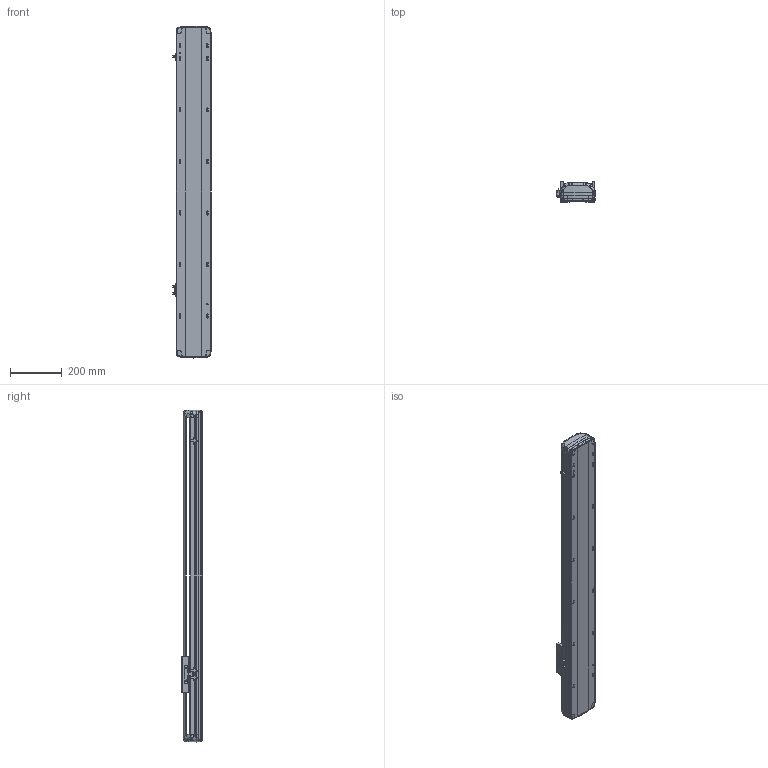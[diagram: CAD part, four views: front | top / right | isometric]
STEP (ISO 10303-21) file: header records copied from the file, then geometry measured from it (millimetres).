
FILE_DESCRIPTION (( 'STEP AP214' ), '1' );
FILE_NAME ('RTH14-XX-900-B-M20-C4.STEP', '2025-10-25T02:23:37', ( 'Microsoft' ), ( 'Microsoft' ), 'SwSTEP 2.0', 'SolidWorks 2018', '' );
FILE_SCHEMA (( 'AUTOMOTIVE_DESIGN' ));
Length unit declared in the file: millimetre
Products named in the file (7): N_RTH14-B-007奻裔^RTH14-XX-XX-B-M20-C4; N_RTH13-L-012感应片（外置）^RTH14-XX-XX-B-M20-C4; N_RTH14-R-004-SFSR16賑釱^RTH14-XX-XX-B-M20-C4; N_RTH14-B-011P菁釱^RTH14-XX-XX-B-M20-C4; N_OMRON EE-SX672 传感器^RTH14-XX-XX-B-M20-C4; RTH14-XX-900-B-M20-C4; N_RTH14-GY-001P^RTH14-XX-XX-B-M20-C4
Assembly tree (9 placements, depth 2):
  RTH14-XX-900-B-M20-C4
    N_RTH14-B-011P菁釱^RTH14-XX-XX-B-M20-C4
    N_RTH14-B-007奻裔^RTH14-XX-XX-B-M20-C4
    N_RTH13-L-012感应片（外置）^RTH14-XX-XX-B-M20-C4
    N_OMRON EE-SX672 传感器^RTH14-XX-XX-B-M20-C4  x3
    N_RTH14-R-004-SFSR16賑釱^RTH14-XX-XX-B-M20-C4
    N_RTH14-GY-001P^RTH14-XX-XX-B-M20-C4  x2
Bounding box: 148.5 x 78.03 x 1288.99 mm (x, y, z)
Volume: 5210720.6 mm3; surface area: 1198481.2 mm2
Topology: 9 solids, 9 shells, 1954 faces, 5512 edges, 3590 vertices
Faces by surface type: plane 987, cylinder 453, bspline 450, cone 56, torus 8
Entity records: 48032 total; most frequent: CARTESIAN_POINT 21194, ORIENTED_EDGE 6040, DIRECTION 4503, EDGE_CURVE 3020, VERTEX_POINT 1976, VECTOR 1683, LINE 1683, AXIS2_PLACEMENT_3D 1410
